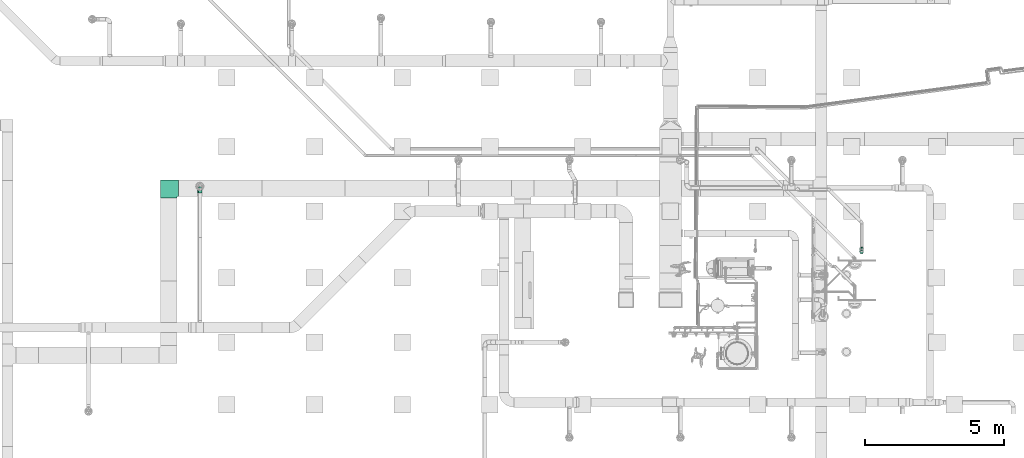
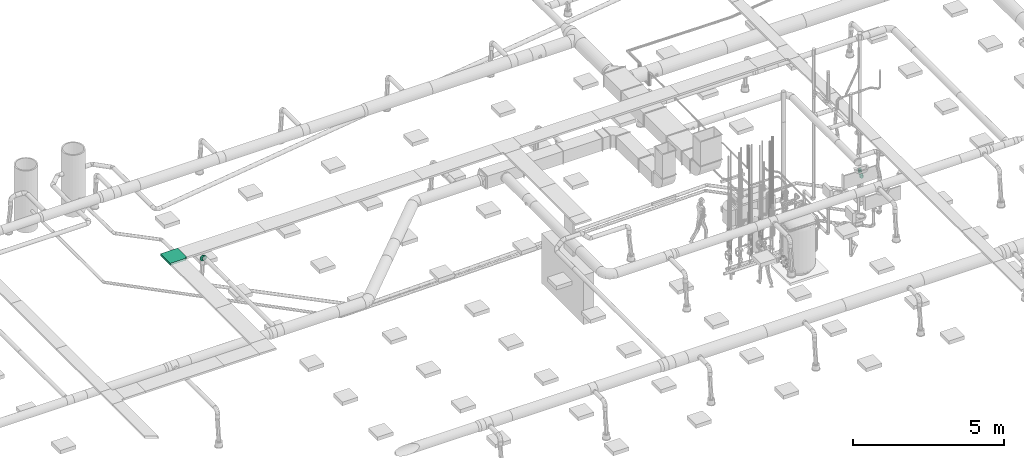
# One storey, part 142 of 374: 3 flow fittings, 1 distribution element.
"""IFC2X3 building model written with IfcOpenShell, lengths in metres."""

from ifc_helpers import new_model, si_unit, direction, origin, place, context, subcontext, project, spatial, open_shell, surface_model, source, transform, mapped, element, save


model = new_model("IFC2X3")

# Units and contexts
model_context = context("Model", 3, precision=1e-05, world=origin(), true_north=direction((-0.4480736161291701, 0.8939966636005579)))
body_context = subcontext(model_context, "Body", "Model", "MODEL_VIEW")
ifc_project = project(units=[si_unit("LENGTHUNIT", "METRE"), si_unit("AREAUNIT", "SQUARE_METRE"), si_unit("VOLUMEUNIT", "CUBIC_METRE"), si_unit("PLANEANGLEUNIT", "RADIAN"), si_unit("THERMODYNAMICTEMPERATUREUNIT", "KELVIN"), si_unit("MASSUNIT", "GRAM", prefix="KILO"), si_unit("TIMEUNIT", "SECOND")], contexts=[model_context])

# Site, building, storey
site_placement = place(None, origin())
site = spatial("IfcSite", under=ifc_project, at=site_placement, Name="Site 1", CompositionType="ELEMENT")
building_placement = place(site_placement, origin())
building = spatial("IfcBuilding", under=site, at=building_placement, Name="Undefined", CompositionType="ELEMENT")
storey_placement = place(building_placement, origin())
storey = spatial("IfcBuildingStorey", under=building, at=storey_placement, Name="Rez de chauss\x8ee", CompositionType="ELEMENT", Elevation=0.0)

# Flow fitting
shared_shape_1 = source(origin(), body_context, "Body", "SurfaceModel", [
    surface_model("IfcFaceBasedSurfaceModel", [(0.06265257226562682, -8.8817842e-16, 0.0), (0.062296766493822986, 0.02088115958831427, -7.105427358e-15), (0.0003558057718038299, 0.020881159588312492, 7.105427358e-15), (0.0, 0.0, 0.0), (-0.059474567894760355, 0.022956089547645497, -0.015896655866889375), (-0.06051773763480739, 0.002098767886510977, -0.01607928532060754), (-0.11311701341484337, 0.02696454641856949, -0.04660663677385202), (-0.11477645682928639, 0.006153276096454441, -0.04714207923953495), (-0.15691588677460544, 0.0326333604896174, -0.09003710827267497), (-0.15907851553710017, 0.01188721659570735, -0.09107150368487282), (-0.18788636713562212, 0.03957621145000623, -0.14322835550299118), (-0.1904048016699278, 0.01890983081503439, -0.14487384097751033), (-0.2039178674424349, 0.04731995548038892, -0.20255548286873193), (-0.20662048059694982, 0.026742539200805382, -0.20488255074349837), (0.061253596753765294, 0.04103889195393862, -0.0053597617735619), (0.0013989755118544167, 0.04103889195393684, -0.005359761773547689), (-0.05641614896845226, 0.04304393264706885, -0.02072097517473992), (-0.10825177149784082, 0.04691737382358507, -0.050396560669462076), (-0.15057538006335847, 0.05239524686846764, -0.09236417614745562), (-0.18050269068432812, 0.05910424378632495, -0.14376379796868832), (-0.19599420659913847, 0.06658715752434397, -0.20109262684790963), (0.05959415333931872, 0.05909948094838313, -0.01571402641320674), (0.003058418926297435, 0.05909948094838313, -0.01571402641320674), (-0.05155090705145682, 0.06099334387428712, -0.030223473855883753), (-0.10051228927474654, 0.06465200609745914, -0.058253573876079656), (-0.1404890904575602, 0.0698261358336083, -0.09789412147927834), (-0.16875695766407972, 0.0761631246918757, -0.14644367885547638), (-0.18338948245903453, 0.08323111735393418, -0.2005936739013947), (0.057431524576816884, 0.07383212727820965, -0.030357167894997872), (0.005221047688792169, 0.07383212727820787, -0.03035716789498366), (-0.0452104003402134, 0.07558110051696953, -0.04375657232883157), (-0.09042599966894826, 0.07895985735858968, -0.06964223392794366), (-0.12734438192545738, 0.08373814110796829, -0.10625008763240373), (-0.15344962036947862, 0.08959031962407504, -0.15108536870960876), (-0.16696268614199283, 0.0961175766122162, -0.20109262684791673), (0.054913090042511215, 0.0842328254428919, -0.048291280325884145), (0.007739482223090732, 0.08423282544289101, -0.04829128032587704), (-0.037826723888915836, 0.08581307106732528, -0.06039801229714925), (-0.07868026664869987, 0.08886587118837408, -0.08378642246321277), (-0.11203704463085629, 0.09318318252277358, -0.11686262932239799), (-0.13562384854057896, 0.09847078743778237, -0.1573725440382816), (-0.14783327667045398, 0.10436834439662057, -0.20255548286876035), (0.05221047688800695, 0.0895927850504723, -0.06829418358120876), (0.010442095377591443, 0.08959278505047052, -0.06829418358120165), (-0.029903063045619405, 0.09099196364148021, -0.07901370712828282), (-0.06607554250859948, 0.09369496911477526, -0.0997222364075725), (-0.0956102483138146, 0.0975175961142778, -0.12900851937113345), (-0.11649443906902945, 0.10219933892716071, -0.16487674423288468), (-0.12730489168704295, 0.1074211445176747, -0.2048825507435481), (0.04950786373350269, 0.08954673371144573, -0.08900271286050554), (0.013144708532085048, 0.08954673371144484, -0.08900271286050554), (-0.02197940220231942, 0.09076484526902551, -0.09833502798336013), (-0.05347081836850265, 0.09311805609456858, -0.11636367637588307), (-0.0791834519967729, 0.09644599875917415, -0.14186003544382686), (-0.09736502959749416, 0.10052187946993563, -0.17308657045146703), (-0.10677650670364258, 0.1050679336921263, -0.20791524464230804), (0.04698942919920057, 0.08409780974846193, -0.10900561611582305), (0.015663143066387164, 0.08409780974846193, -0.10900561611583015), (-0.014595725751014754, 0.08514719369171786, -0.11704525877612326), (-0.0417250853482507, 0.0871744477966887, -0.13257665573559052), (-0.06387611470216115, 0.09004141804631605, -0.15454136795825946), (-0.07953925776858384, 0.09355272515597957, -0.1814425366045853), (-0.08764709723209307, 0.09746907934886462, -0.21144689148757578), (0.04482680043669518, 0.0736173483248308, -0.12693972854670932), (0.017825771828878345, 0.0736173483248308, -0.12693972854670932), (-0.008255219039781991, 0.07452184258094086, -0.13386932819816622), (-0.03163879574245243, 0.0762691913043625, -0.14725628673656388), (-0.050731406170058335, 0.07874031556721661, -0.1661883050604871), (-0.06423192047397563, 0.08176681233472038, -0.18937519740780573), (-0.07122030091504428, 0.08514243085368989, -0.21523681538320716), (0.04316735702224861, 0.058819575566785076, -0.14158287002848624), (0.019485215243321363, 0.058819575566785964, -0.14158287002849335), (-0.0033899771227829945, 0.05961289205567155, -0.14766070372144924), (-0.02389931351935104, 0.06114546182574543, -0.15940217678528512), (-0.04064511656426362, 0.06331284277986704, -0.17600712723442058), (-0.052486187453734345, 0.06596733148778, -0.19634395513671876), (-0.05861557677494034, 0.06892802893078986, -0.2190267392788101), (0.04212418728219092, 0.040712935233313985, -0.15193713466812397), (0.020528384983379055, 0.040712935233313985, -0.15193713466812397), (-0.0003315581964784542, 0.041436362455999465, -0.15747952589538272), (-0.019034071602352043, 0.04283391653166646, -0.16818660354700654), (-0.03430460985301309, 0.04481035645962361, -0.1833286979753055), (-0.04510251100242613, 0.047230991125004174, -0.20187390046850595), (-0.05069191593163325, 0.04993085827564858, -0.22255838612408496), (0.04176838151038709, 0.02053136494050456, -0.15729689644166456), (0.020884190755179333, 0.02053136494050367, -0.15729689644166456), (0.0007116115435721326, 0.021230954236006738, -0.16265665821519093), (-0.017374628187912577, 0.022582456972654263, -0.17301092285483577), (-0.03214198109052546, 0.024493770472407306, -0.1876540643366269), (-0.042584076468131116, 0.026834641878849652, -0.20558817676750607), (-0.04798930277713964, 0.02944554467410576, -0.22559108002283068), (0.04212418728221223, -0.000349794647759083, -0.15729689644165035), (0.020528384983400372, -0.000349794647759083, -0.15729689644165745), (-0.0003315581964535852, 0.00037363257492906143, -0.1628392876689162), (-0.019034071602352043, 0.0017711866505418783, -0.17354636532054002), (-0.03430460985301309, 0.0037476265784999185, -0.18868845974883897), (-0.04510251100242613, 0.00616826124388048, -0.20723366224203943), (-0.05069191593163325, 0.008868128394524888, -0.22791814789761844), (0.04316735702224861, -0.020507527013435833, -0.15193713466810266), (0.019485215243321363, -0.020507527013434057, -0.15193713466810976), (-0.0033899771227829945, -0.019714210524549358, -0.15801496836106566), (-0.02389931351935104, -0.01818164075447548, -0.16975644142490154), (-0.04064511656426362, -0.01601425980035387, -0.186361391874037), (-0.052486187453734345, -0.013359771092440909, -0.20669821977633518), (-0.05861557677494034, -0.010399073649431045, -0.22938100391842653), (0.04482680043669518, -0.03856811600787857, -0.1415828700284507), (0.017825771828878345, -0.03856811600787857, -0.1415828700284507), (-0.008255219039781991, -0.03766362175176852, -0.1485124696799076), (-0.03163879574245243, -0.03591627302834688, -0.16189942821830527), (-0.050731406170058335, -0.03344514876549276, -0.1808314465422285), (-0.06423192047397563, -0.030418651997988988, -0.20401833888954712), (-0.07122030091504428, -0.027043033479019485, -0.22987995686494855), (0.04698942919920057, -0.05330076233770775, -0.12693972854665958), (0.015663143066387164, -0.05330076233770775, -0.12693972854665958), (-0.014595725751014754, -0.05225137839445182, -0.1349793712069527), (-0.0417250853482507, -0.05022412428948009, -0.15051076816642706), (-0.06387611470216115, -0.047357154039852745, -0.172475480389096), (-0.07953925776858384, -0.043845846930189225, -0.19937664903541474), (-0.08764709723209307, -0.03992949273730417, -0.2293810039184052), (0.04950786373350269, -0.06370146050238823, -0.10900561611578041), (0.013144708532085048, -0.06370146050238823, -0.10900561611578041), (-0.02197940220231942, -0.06248334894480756, -0.11833793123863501), (-0.05347081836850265, -0.06013013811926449, -0.13636657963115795), (-0.0791834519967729, -0.05680219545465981, -0.16186293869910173), (-0.09736502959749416, -0.05272631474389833, -0.1930894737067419), (-0.10677650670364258, -0.04818026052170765, -0.2279181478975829), (0.05221047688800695, -0.06906142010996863, -0.08900271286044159), (0.010442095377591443, -0.06906142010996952, -0.08900271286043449), (-0.029903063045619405, -0.06766224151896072, -0.09972223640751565), (-0.06607554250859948, -0.06495923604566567, -0.12043076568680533), (-0.0956102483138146, -0.06113660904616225, -0.14971704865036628), (-0.11649443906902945, -0.05645486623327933, -0.1855852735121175), (-0.12730489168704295, -0.05123306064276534, -0.22559108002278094), (0.054913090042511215, -0.06901536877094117, -0.06829418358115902), (0.007739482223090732, -0.06901536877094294, -0.06829418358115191), (-0.037826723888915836, -0.06743512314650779, -0.08040091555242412), (-0.07868026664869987, -0.06438232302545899, -0.10378932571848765), (-0.11203704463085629, -0.06006501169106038, -0.13686553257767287), (-0.13562384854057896, -0.0547774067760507, -0.17737544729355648), (-0.14783327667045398, -0.04887984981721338, -0.22255838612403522), (0.057431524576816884, -0.06356644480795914, -0.0482912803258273), (0.005221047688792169, -0.06356644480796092, -0.04829128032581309), (-0.0452104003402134, -0.061817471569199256, -0.0616906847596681), (-0.09042599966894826, -0.05843871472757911, -0.0875763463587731), (-0.12734438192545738, -0.05366043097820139, -0.12418420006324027), (-0.15344962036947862, -0.04780825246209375, -0.1690194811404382), (-0.16696268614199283, -0.041280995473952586, -0.21902673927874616), (0.05959415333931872, -0.05308598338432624, -0.030357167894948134), (0.003058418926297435, -0.05308598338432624, -0.030357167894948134), (-0.05155090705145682, -0.05119212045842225, -0.04486661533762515), (-0.10051228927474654, -0.04753345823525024, -0.07289671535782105), (-0.1404890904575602, -0.04235932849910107, -0.11253726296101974), (-0.16875695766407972, -0.03602233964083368, -0.16108682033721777), (-0.18338948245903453, -0.02895434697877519, -0.2152368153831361), (0.061253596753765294, -0.03828821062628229, -0.015714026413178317), (0.0013989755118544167, -0.03828821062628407, -0.015714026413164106), (-0.05641614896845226, -0.03628316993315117, -0.031075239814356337), (-0.10825177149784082, -0.03240972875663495, -0.06075082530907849), (-0.15057538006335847, -0.026931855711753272, -0.10271844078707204), (-0.18050269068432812, -0.02022285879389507, -0.15411806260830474), (-0.19599420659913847, -0.012739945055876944, -0.21144689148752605), (0.062296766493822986, -0.020181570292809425, -0.005359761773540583), (0.0003558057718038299, -0.020181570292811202, -0.0053597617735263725), (-0.059474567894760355, -0.018106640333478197, -0.021256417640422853), (-0.11311701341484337, -0.014098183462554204, -0.051966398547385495), (-0.15691588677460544, -0.00842936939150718, -0.09539687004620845), (-0.18788636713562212, -0.0014865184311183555, -0.14858811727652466), (-0.2039178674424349, 0.006257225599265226, -0.2079152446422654)], [open_shell([[[0, 1, 2, 3]], [[3, 2, 4, 5]], [[5, 4, 6, 7]], [[7, 6, 8, 9]], [[9, 8, 10, 11]], [[11, 10, 12, 13]], [[1, 14, 15, 2]], [[2, 15, 16, 4]], [[4, 16, 17, 6]], [[6, 17, 18, 8]], [[8, 18, 19, 10]], [[10, 19, 20, 12]], [[14, 21, 22, 15]], [[15, 22, 23, 16]], [[16, 23, 24, 17]], [[17, 24, 25, 18]], [[18, 25, 26, 19]], [[19, 26, 27, 20]], [[21, 28, 29, 22]], [[22, 29, 30, 23]], [[23, 30, 31, 24]], [[24, 31, 32, 25]], [[25, 32, 33, 26]], [[26, 33, 34, 27]], [[28, 35, 36, 29]], [[29, 36, 37, 30]], [[30, 37, 38, 31]], [[31, 38, 39, 32]], [[32, 39, 40, 33]], [[33, 40, 41, 34]], [[35, 42, 43, 36]], [[36, 43, 44, 37]], [[37, 44, 45, 38]], [[38, 45, 46, 39]], [[39, 46, 47, 40]], [[40, 47, 48, 41]], [[42, 49, 50, 43]], [[43, 50, 51, 44]], [[44, 51, 52, 45]], [[45, 52, 53, 46]], [[46, 53, 54, 47]], [[47, 54, 55, 48]], [[49, 56, 57, 50]], [[50, 57, 58, 51]], [[51, 58, 59, 52]], [[52, 59, 60, 53]], [[53, 60, 61, 54]], [[54, 61, 62, 55]], [[56, 63, 64, 57]], [[57, 64, 65, 58]], [[58, 65, 66, 59]], [[59, 66, 67, 60]], [[60, 67, 68, 61]], [[61, 68, 69, 62]], [[63, 70, 71, 64]], [[64, 71, 72, 65]], [[65, 72, 73, 66]], [[66, 73, 74, 67]], [[67, 74, 75, 68]], [[68, 75, 76, 69]], [[70, 77, 78, 71]], [[71, 78, 79, 72]], [[72, 79, 80, 73]], [[73, 80, 81, 74]], [[74, 81, 82, 75]], [[75, 82, 83, 76]], [[77, 84, 85, 78]], [[78, 85, 86, 79]], [[79, 86, 87, 80]], [[80, 87, 88, 81]], [[81, 88, 89, 82]], [[82, 89, 90, 83]], [[84, 91, 92, 85]], [[85, 92, 93, 86]], [[86, 93, 94, 87]], [[87, 94, 95, 88]], [[88, 95, 96, 89]], [[89, 96, 97, 90]], [[91, 98, 99, 92]], [[92, 99, 100, 93]], [[93, 100, 101, 94]], [[94, 101, 102, 95]], [[95, 102, 103, 96]], [[96, 103, 104, 97]], [[98, 105, 106, 99]], [[99, 106, 107, 100]], [[100, 107, 108, 101]], [[101, 108, 109, 102]], [[102, 109, 110, 103]], [[103, 110, 111, 104]], [[105, 112, 113, 106]], [[106, 113, 114, 107]], [[107, 114, 115, 108]], [[108, 115, 116, 109]], [[109, 116, 117, 110]], [[110, 117, 118, 111]], [[112, 119, 120, 113]], [[113, 120, 121, 114]], [[114, 121, 122, 115]], [[115, 122, 123, 116]], [[116, 123, 124, 117]], [[117, 124, 125, 118]], [[119, 126, 127, 120]], [[120, 127, 128, 121]], [[121, 128, 129, 122]], [[122, 129, 130, 123]], [[123, 130, 131, 124]], [[124, 131, 132, 125]], [[126, 133, 134, 127]], [[127, 134, 135, 128]], [[128, 135, 136, 129]], [[129, 136, 137, 130]], [[130, 137, 138, 131]], [[131, 138, 139, 132]], [[133, 140, 141, 134]], [[134, 141, 142, 135]], [[135, 142, 143, 136]], [[136, 143, 144, 137]], [[137, 144, 145, 138]], [[138, 145, 146, 139]], [[140, 147, 148, 141]], [[141, 148, 149, 142]], [[142, 149, 150, 143]], [[143, 150, 151, 144]], [[144, 151, 152, 145]], [[145, 152, 153, 146]], [[147, 154, 155, 148]], [[148, 155, 156, 149]], [[149, 156, 157, 150]], [[150, 157, 158, 151]], [[151, 158, 159, 152]], [[152, 159, 160, 153]], [[154, 161, 162, 155]], [[155, 162, 163, 156]], [[156, 163, 164, 157]], [[157, 164, 165, 158]], [[158, 165, 166, 159]], [[159, 166, 167, 160]], [[161, 0, 3, 162]], [[162, 3, 5, 163]], [[163, 5, 7, 164]], [[164, 7, 9, 165]], [[165, 9, 11, 166]], [[166, 11, 13, 167]]])]),
])
flow_fitting_1_placement = place(storey_placement, origin())
element("IfcFlowFitting", 1, at=flow_fitting_1_placement, inside=storey, Name="Coude", ObjectType="Coude", context=body_context, shape_type="MappedRepresentation", body=[
    mapped(shared_shape_1, transform((34.97599586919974, 16.000171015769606, 3.7021165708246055), x_axis=(0.0, 0.13052619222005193, -0.9914448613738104), y_axis=(-0.9915887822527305, -0.12832103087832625, -0.016893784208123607), z_axis=(-0.12942830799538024, 0.9831056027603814, 0.12942830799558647))),
])

# Distribution element
shared_shape_2 = source(origin(), body_context, "Body", "SurfaceModel", [
    surface_model("IfcFaceBasedSurfaceModel", [(0.0, 0.049999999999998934, 0.0), (0.0, 0.0, 0.0), (0.08000000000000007, 0.0, 5.82867088e-16), (0.08000000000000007, 0.04999999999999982, 0.0), (0.0, 0.0, 0.04999999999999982), (0.08000000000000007, 0.0, 0.04999999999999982), (0.0, -0.5999999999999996, 0.04999999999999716), (0.0, -0.5999999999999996, -0.6000000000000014), (0.08000000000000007, -0.5999999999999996, -0.6000000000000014), (0.08000000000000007, -0.5999999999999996, 0.04999999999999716), (0.0, 0.05000000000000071, -0.6000000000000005), (0.08000000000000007, 0.05000000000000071, -0.6000000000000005)], [open_shell([[[0, 1, 2, 3]], [[1, 4, 5, 2]], [[6, 7, 8, 9]], [[7, 10, 11, 8]], [[2, 5, 9]], [[2, 9, 8]], [[2, 8, 11]], [[2, 11, 3]], [[6, 4, 1]], [[7, 6, 1]], [[10, 7, 1]], [[0, 10, 1]]])]),
])
distribution_element_placement = place(storey_placement, origin())
element("IfcDistributionElement", 2, at=distribution_element_placement, inside=storey, Name="Angle", ObjectType="Angle", context=body_context, shape_type="MappedRepresentation", body=[
    mapped(shared_shape_2, transform((34.161, 15.643637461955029, 4.18), x_axis=(0.0, 0.0, -1.0), y_axis=(1.0, 0.0, 0.0), z_axis=(0.0, -1.0, 0.0))),
])

# Flow fittings
shared_shape_3 = source(origin(), body_context, "Body", "SurfaceModel", [
    surface_model("IfcFaceBasedSurfaceModel", [(0.0, 0.0163157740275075, 0.0), (0.0, 0.0, 0.0), (0.03640000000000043, 0.0, 0.0), (0.03640000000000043, 0.01631577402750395, -8.8817842e-16), (0.0, -0.015759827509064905, -0.004222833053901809), (0.03640000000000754, -0.01575982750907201, -0.00422283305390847), (0.0, -0.029889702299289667, -0.012380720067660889), (0.03640000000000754, -0.02988970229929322, -0.012380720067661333), (0.0, -0.04142669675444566, -0.02391771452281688), (0.03640000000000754, -0.04142669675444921, -0.023917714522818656), (0.0, -0.04958458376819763, -0.038047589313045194), (0.03640000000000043, -0.04958458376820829, -0.038047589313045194), (0.0, -0.053807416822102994, -0.053807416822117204), (0.03640000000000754, -0.053807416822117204, -0.05380741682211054), (0.0, -0.053807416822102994, -0.07012319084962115), (0.03639999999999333, -0.053807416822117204, -0.07012319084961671), (0.0, -0.04958458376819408, -0.08588301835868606), (0.03640000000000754, -0.04958458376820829, -0.08588301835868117), (0.0, -0.04142669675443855, -0.10001289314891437), (0.03640000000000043, -0.041426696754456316, -0.1000128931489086), (0.0, -0.02988970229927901, -0.11154988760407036), (0.03640000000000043, -0.02988970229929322, -0.11154988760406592), (0.0, -0.015759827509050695, -0.11970777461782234), (0.03640000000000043, -0.015759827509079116, -0.11970777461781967), (0.0, 1.4210854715e-14, -0.12393060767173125), (0.03640000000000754, -1.4210854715e-14, -0.12393060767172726), (0.0, 0.016315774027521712, -0.12393060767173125), (0.03640000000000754, 0.01631577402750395, -0.12393060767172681), (0.0, 0.03207560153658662, -0.11970777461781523), (0.03640000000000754, 0.032075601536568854, -0.11970777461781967), (0.0, 0.04620547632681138, -0.11154988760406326), (0.03640000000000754, 0.04620547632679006, -0.11154988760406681), (0.0, 0.05774247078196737, -0.10001289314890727), (0.03640000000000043, 0.05774247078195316, -0.10001289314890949), (0.0, 0.06590035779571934, -0.08588301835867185), (0.03640000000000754, 0.06590035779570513, -0.08588301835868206), (0.0, 0.0701231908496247, -0.07012319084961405), (0.03640000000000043, 0.07012319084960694, -0.07012319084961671), (0.0, 0.0701231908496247, -0.05380741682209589), (0.03640000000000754, 0.07012319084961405, -0.05380741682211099), (0.0, 0.06590035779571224, -0.03804758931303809), (0.03640000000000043, 0.06590035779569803, -0.03804758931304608), (0.0, 0.05774247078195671, -0.023917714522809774), (0.03640000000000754, 0.057742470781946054, -0.0239177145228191), (0.0, 0.04620547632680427, -0.012380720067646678), (0.03640000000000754, 0.04620547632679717, -0.012380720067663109), (0.0, 0.03207560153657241, -0.004222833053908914), (0.03640000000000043, 0.032075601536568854, -0.00422283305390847), (0.06832402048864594, -0.04964138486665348, -0.07067165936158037), (0.06887509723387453, -0.04956947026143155, -0.054365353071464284), (0.09807338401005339, -0.037427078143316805, -0.0722797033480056), (0.09913799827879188, -0.037144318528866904, -0.056001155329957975), (0.12362157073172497, -0.0179965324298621, -0.07483778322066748), (0.12512720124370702, -0.017378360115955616, -0.05860339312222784), (0.06670834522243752, -0.04562939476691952, -0.08640372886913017), (0.09495209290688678, -0.034033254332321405, -0.08793038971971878), (0.11920728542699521, -0.01558608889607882, -0.09035900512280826), (0.06413817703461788, -0.037806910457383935, -0.100489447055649), (0.08998683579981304, -0.027194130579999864, -0.10188664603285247), (0.11218517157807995, -0.010311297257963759, -0.10410931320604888), (0.060788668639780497, -0.026707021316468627, -0.11196889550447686), (0.08351598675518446, -0.01737578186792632, -0.11319737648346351), (0.10303377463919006, -0.0025316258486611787, -0.11515164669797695), (0.05688808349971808, -0.013086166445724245, -0.12005976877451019), (0.07598052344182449, -0.00524731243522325, -0.1210917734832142), (0.09237674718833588, 0.00722275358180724, -0.1227334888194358), (0.05270224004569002, 0.0021274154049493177, -0.12421068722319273), (0.06789397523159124, 0.008364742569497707, -0.12503184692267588), (0.08094034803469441, 0.018287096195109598, -0.1263381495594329), (0.04851639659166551, 0.017896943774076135, -0.1241387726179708), (0.05980742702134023, 0.02253274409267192, -0.12474908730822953), (0.06950394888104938, 0.029907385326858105, -0.12571997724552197), (0.044615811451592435, 0.03314775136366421, -0.11984892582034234), (0.05227196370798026, 0.036291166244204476, -0.12026276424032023), (0.058846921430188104, 0.04129171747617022, -0.12092109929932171), (0.04126630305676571, 0.04684052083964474, -0.11163349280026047), (0.045801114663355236, 0.04870239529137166, -0.11187861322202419), (0.04969552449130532, 0.05166426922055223, -0.11226855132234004), (0.038696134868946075, 0.05804211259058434, -0.10005234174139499), (0.040835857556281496, 0.058920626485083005, -0.10016800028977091), (0.04267341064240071, 0.060318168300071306, -0.10035199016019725), (0.0370804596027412, 0.06598915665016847, -0.08589470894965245), (0.03771456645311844, 0.06624950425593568, -0.08592898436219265), (0.038259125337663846, 0.06666366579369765, -0.08598350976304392), (0.03652938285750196, 0.07014007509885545, -0.07012541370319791), (0.03664995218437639, 0.07018957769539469, -0.07013193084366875), (0.0367534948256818, 0.07026832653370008, -0.07014229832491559), (0.037080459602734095, 0.07021198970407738, -0.053819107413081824), (0.03771456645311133, 0.07047233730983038, -0.053853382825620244), (0.038259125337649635, 0.07088649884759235, -0.05390790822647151), (0.038696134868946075, 0.06619999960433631, -0.03808703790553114), (0.040835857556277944, 0.06707851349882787, -0.03820269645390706), (0.04267341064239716, 0.06847605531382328, -0.038386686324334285), (0.04126630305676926, 0.05837751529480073, -0.024001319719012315), (0.04580111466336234, 0.060239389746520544, -0.024246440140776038), (0.04969552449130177, 0.06320126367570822, -0.024636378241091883), (0.04461581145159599, 0.04727762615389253, -0.012521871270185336), (0.05227196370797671, 0.050421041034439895, -0.012935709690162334), (0.058846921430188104, 0.055421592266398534, -0.013594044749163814), (0.04851639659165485, 0.03365677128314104, -0.004430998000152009), (0.05980742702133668, 0.038292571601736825, -0.005041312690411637), (0.06950394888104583, 0.045667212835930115, -0.006012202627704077), (0.05270224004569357, 0.018443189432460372, -0.00028007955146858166), (0.06789397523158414, 0.02468051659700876, -0.0011012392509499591), (0.0809403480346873, 0.03460287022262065, -0.0024075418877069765), (0.056888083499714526, 0.00267366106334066, -0.00035199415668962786), (0.07598052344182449, 0.01051251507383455, -0.0013839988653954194), (0.09237674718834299, 0.02298258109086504, -0.0030257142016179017), (0.06078866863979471, -0.012577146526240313, -0.004641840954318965), (0.08351598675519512, -0.003245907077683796, -0.005870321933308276), (0.10303377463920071, 0.01159824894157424, -0.00782459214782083), (0.06413817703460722, -0.02626991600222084, -0.01285727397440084), (0.08998683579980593, -0.015657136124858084, -0.014254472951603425), (0.1121851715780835, 0.0012256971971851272, -0.01647714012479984), (0.06670834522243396, -0.03747150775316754, -0.02443842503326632), (0.09495209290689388, -0.02587536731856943, -0.025965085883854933), (0.11920728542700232, -0.007428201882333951, -0.028393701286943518), (0.06832402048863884, -0.04541855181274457, -0.03859605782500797), (0.09807338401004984, -0.0332042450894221, -0.0402041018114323), (0.12362157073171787, -0.013773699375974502, -0.04276218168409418), (0.14936452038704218, 0.007517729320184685, -0.07819679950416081), (0.15087015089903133, 0.00813590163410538, -0.06196240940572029), (0.14495023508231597, 0.009928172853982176, -0.09371802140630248), (0.1379281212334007, 0.015202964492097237, -0.1074683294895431), (0.12877672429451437, 0.022982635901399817, -0.11851066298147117), (0.11811969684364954, 0.03273701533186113, -0.12609250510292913), (0.10668329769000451, 0.043801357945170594, -0.12969716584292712), (0.09524689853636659, 0.055421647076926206, -0.12907899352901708), (0.0845898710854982, 0.06680597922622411, -0.12428011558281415), (0.07543847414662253, 0.07717853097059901, -0.1156275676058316), (0.06841636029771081, 0.0858324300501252, -0.10371100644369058), (0.06400207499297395, 0.09217792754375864, -0.08934252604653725), (0.06249644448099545, 0.09578258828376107, -0.07350131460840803), (0.0640020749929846, 0.09640076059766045, -0.05726692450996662), (0.06841636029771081, 0.09399031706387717, -0.04174570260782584), (0.07543847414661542, 0.08871552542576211, -0.027995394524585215), (0.0845898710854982, 0.08093585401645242, -0.016953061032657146), (0.09524689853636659, 0.07118147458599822, -0.009371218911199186), (0.10668329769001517, 0.06011713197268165, -0.005766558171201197), (0.11811969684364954, 0.048496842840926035, -0.006384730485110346), (0.12877672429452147, 0.03711251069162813, -0.011183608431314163), (0.13792812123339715, 0.02673995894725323, -0.019836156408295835), (0.14495023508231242, 0.01808605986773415, -0.03175271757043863), (0.14936452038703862, 0.011740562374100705, -0.04612119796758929)], [open_shell([[[0, 1, 2, 3]], [[1, 4, 5, 2]], [[4, 6, 7, 5]], [[6, 8, 9, 7]], [[8, 10, 11, 9]], [[10, 12, 13, 11]], [[12, 14, 15, 13]], [[14, 16, 17, 15]], [[16, 18, 19, 17]], [[18, 20, 21, 19]], [[20, 22, 23, 21]], [[22, 24, 25, 23]], [[24, 26, 27, 25]], [[26, 28, 29, 27]], [[28, 30, 31, 29]], [[30, 32, 33, 31]], [[32, 34, 35, 33]], [[34, 36, 37, 35]], [[36, 38, 39, 37]], [[38, 40, 41, 39]], [[40, 42, 43, 41]], [[42, 44, 45, 43]], [[44, 46, 47, 45]], [[46, 0, 3, 47]], [[13, 15, 48, 49]], [[49, 48, 50, 51]], [[51, 50, 52, 53]], [[15, 17, 54, 48]], [[48, 54, 55, 50]], [[50, 55, 56, 52]], [[17, 19, 57, 54]], [[54, 57, 58, 55]], [[55, 58, 59, 56]], [[19, 21, 60, 57]], [[57, 60, 61, 58]], [[58, 61, 62, 59]], [[21, 23, 63, 60]], [[60, 63, 64, 61]], [[61, 64, 65, 62]], [[23, 25, 66, 63]], [[63, 66, 67, 64]], [[64, 67, 68, 65]], [[25, 27, 69, 66]], [[66, 69, 70, 67]], [[67, 70, 71, 68]], [[27, 29, 72, 69]], [[69, 72, 73, 70]], [[70, 73, 74, 71]], [[29, 31, 75, 72]], [[72, 75, 76, 73]], [[73, 76, 77, 74]], [[31, 33, 78, 75]], [[75, 78, 79, 76]], [[76, 79, 80, 77]], [[33, 35, 81, 78]], [[78, 81, 82, 79]], [[79, 82, 83, 80]], [[35, 37, 84, 81]], [[81, 84, 85, 82]], [[82, 85, 86, 83]], [[37, 39, 87, 84]], [[84, 87, 88, 85]], [[85, 88, 89, 86]], [[39, 41, 90, 87]], [[87, 90, 91, 88]], [[88, 91, 92, 89]], [[41, 43, 93, 90]], [[90, 93, 94, 91]], [[91, 94, 95, 92]], [[43, 45, 96, 93]], [[93, 96, 97, 94]], [[94, 97, 98, 95]], [[45, 47, 99, 96]], [[96, 99, 100, 97]], [[97, 100, 101, 98]], [[47, 3, 102, 99]], [[99, 102, 103, 100]], [[100, 103, 104, 101]], [[3, 2, 105, 102]], [[102, 105, 106, 103]], [[103, 106, 107, 104]], [[2, 5, 108, 105]], [[105, 108, 109, 106]], [[106, 109, 110, 107]], [[5, 7, 111, 108]], [[108, 111, 112, 109]], [[109, 112, 113, 110]], [[7, 9, 114, 111]], [[111, 114, 115, 112]], [[112, 115, 116, 113]], [[9, 11, 117, 114]], [[114, 117, 118, 115]], [[115, 118, 119, 116]], [[11, 13, 49, 117]], [[117, 49, 51, 118]], [[118, 51, 53, 119]], [[53, 52, 120, 121]], [[52, 56, 122, 120]], [[56, 59, 123, 122]], [[59, 62, 124, 123]], [[62, 65, 125, 124]], [[65, 68, 126, 125]], [[68, 71, 127, 126]], [[71, 74, 128, 127]], [[74, 77, 129, 128]], [[77, 80, 130, 129]], [[80, 83, 131, 130]], [[83, 86, 132, 131]], [[86, 89, 133, 132]], [[89, 92, 134, 133]], [[92, 95, 135, 134]], [[95, 98, 136, 135]], [[98, 101, 137, 136]], [[101, 104, 138, 137]], [[104, 107, 139, 138]], [[107, 110, 140, 139]], [[110, 113, 141, 140]], [[113, 116, 142, 141]], [[116, 119, 143, 142]], [[119, 53, 121, 143]]])]),
])
flow_fitting_2_placement = place(storey_placement, origin())
element("IfcFlowFitting", 3, at=flow_fitting_2_placement, inside=storey, Name="PE-HD coude 45°", ObjectType="PE-HD coude 45°", context=body_context, shape_type="MappedRepresentation", body=[
    mapped(shared_shape_3, transform((58.764522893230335, 13.781176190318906, 0.24955607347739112), x_axis=(0.0, 0.0, -1.0), y_axis=(-0.13052619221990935, -0.9914448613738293, 0.0), z_axis=(-0.9914448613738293, 0.13052619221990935, 0.0))),
])
flow_fitting_3_placement = place(storey_placement, origin())
element("IfcFlowFitting", 4, at=flow_fitting_3_placement, inside=storey, Name="PE-HD coude 45°", ObjectType="PE-HD coude 45°", context=body_context, shape_type="MappedRepresentation", body=[
    mapped(shared_shape_3, transform((58.88526362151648, 13.673203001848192, 0.11811969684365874), x_axis=(0.0, -0.7069896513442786, -0.7072238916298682), y_axis=(0.13052619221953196, 0.7011734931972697, -0.7009412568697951), z_axis=(0.9914448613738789, -0.09231124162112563, 0.0922806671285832))),
])

save(model, "model.ifc")
